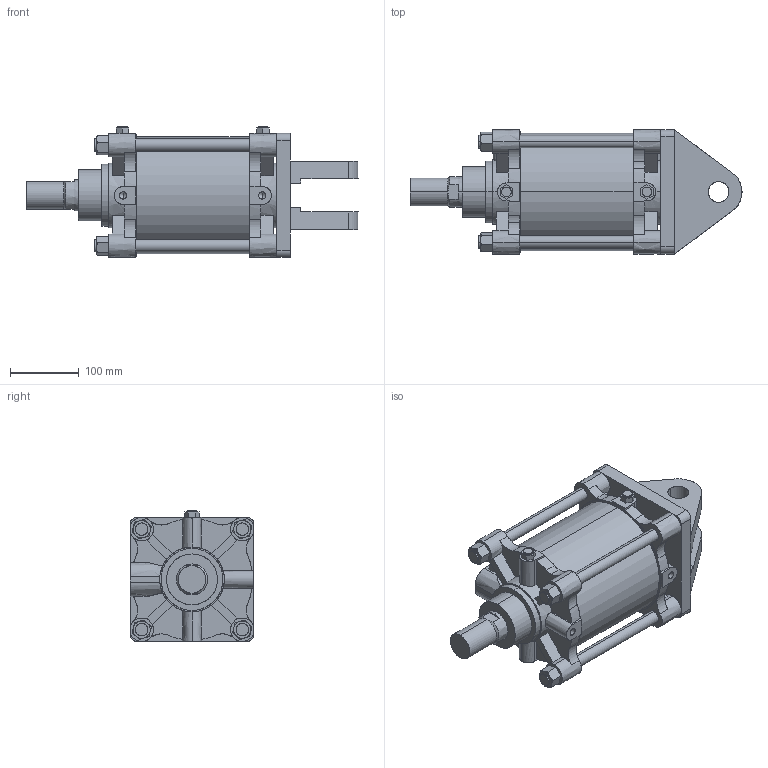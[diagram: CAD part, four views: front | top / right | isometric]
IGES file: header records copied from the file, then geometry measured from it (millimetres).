
Start section: SolidWorks IGES file using analytic representation for surfaces
Global section: file name: C:\Users\Toshiba\Desktop\A##2-160#-100-W.IGS; native system: SolidWorks 2014; preprocessor: SolidWorks 2014; author: Toshiba; date: 160331.145653; units: millimetre
Bounding box: 482 x 180 x 190 mm (x, y, z)
Surface area: 584453.4 mm2 (no closed solid volume)
Topology: 0 solids, 0 shells, 363 faces, 6906 edges, 6894 vertices
Faces by surface type: bspline 211, revolution 152
